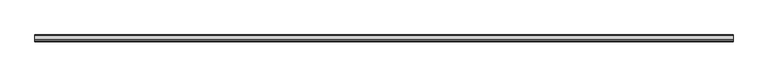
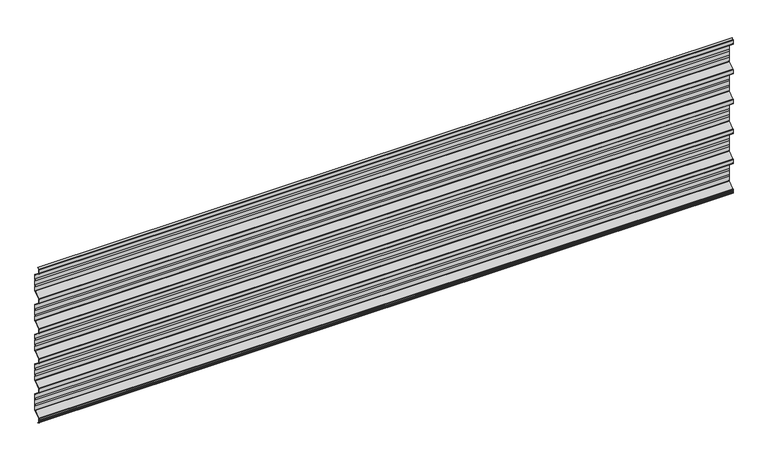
"""IFC4 building model written with IfcOpenShell, lengths in millimetres: plate geometry, HIANSA - H20.F09.004-CHAPA PERFILADA FACHADA HORIZONTAL - MT42 - Panel de Muro Cortina : -."""

from ifc_helpers import new_model, si_unit, point, frame, frame_2d, origin, place, context, project, spatial, polyline, circle_curve, trimmed, segment, composite_curve, outline, extrude, source, transform, mapped, element, save


def plate_926300cb(model_context):
    return source(origin(), model_context, "Body", "SweptSolid", [
        extrude(outline(composite_curve([segment(trimmed(circle_curve(frame_2d((-3.4, 553.2159219)), 2.6), [point((-0.8, 553.2159219))], [point((-1.8244302, 555.284153))], True, "CARTESIAN"), True, "CONTINUOUS"), segment(polyline([(-1.8244302, 555.284153), (-40.7603606, 584.9453834)]), True, "CONTINUOUS"), segment(trimmed(circle_curve(frame_2d((-38.7, 587.6499932)), 3.4), [point((-40.7603606, 584.9453834))], [point((-42.1, 587.6499932))], False, "CARTESIAN"), True, "CONTINUOUS"), segment(polyline([(-42.1, 587.6499932), (-42.1, 612.3500068)]), True, "CONTINUOUS"), segment(trimmed(circle_curve(frame_2d((-38.7, 612.3500068)), 3.4), [point((-42.1, 612.3500068))], [point((-40.7603606, 615.0546166))], False, "CARTESIAN"), True, "CONTINUOUS"), segment(polyline([(-40.7603606, 615.0546166), (-1.8244302, 644.715847)]), True, "CONTINUOUS"), segment(trimmed(circle_curve(frame_2d((-3.4, 646.7840781)), 2.6), [point((-1.8244302, 644.715847))], [point((-0.8, 646.7840781))], True, "CARTESIAN"), True, "CONTINUOUS"), segment(polyline([(-0.8, 646.7840781), (-0.8, 673.9336996)]), True, "CONTINUOUS"), segment(trimmed(circle_curve(frame_2d((17.1, 680.0)), 18.9), [point((-0.8, 673.9336996))], [point((-0.8, 686.0663004))], False, "CARTESIAN"), True, "CONTINUOUS"), segment(polyline([(-0.8, 686.0663004), (-0.8, 713.9336996)]), True, "CONTINUOUS"), segment(trimmed(circle_curve(frame_2d((17.1, 720.0)), 18.9), [point((-0.8, 713.9336996))], [point((-0.8, 726.0663004))], False, "CARTESIAN"), True, "CONTINUOUS"), segment(polyline([(-0.8, 726.0663004), (-0.8, 753.2159219)]), True, "CONTINUOUS"), segment(trimmed(circle_curve(frame_2d((-3.4, 753.2159219)), 2.6), [point((-0.8, 753.2159219))], [point((-1.8244302, 755.284153))], True, "CARTESIAN"), True, "CONTINUOUS"), segment(polyline([(-1.8244302, 755.284153), (-40.7603606, 784.9453834)]), True, "CONTINUOUS"), segment(trimmed(circle_curve(frame_2d((-38.7, 787.6499932)), 3.4), [point((-40.7603606, 784.9453834))], [point((-42.1, 787.6499932))], False, "CARTESIAN"), True, "CONTINUOUS"), segment(polyline([(-42.1, 787.6499932), (-42.1, 812.3500068)]), True, "CONTINUOUS"), segment(trimmed(circle_curve(frame_2d((-38.7, 812.3500068)), 3.4), [point((-42.1, 812.3500068))], [point((-40.7603606, 815.0546166))], False, "CARTESIAN"), True, "CONTINUOUS"), segment(polyline([(-40.7603606, 815.0546166), (-1.8244302, 844.715847)]), True, "CONTINUOUS"), segment(trimmed(circle_curve(frame_2d((-3.4, 846.7840781)), 2.6), [point((-1.8244302, 844.715847))], [point((-0.8, 846.7840781))], True, "CARTESIAN"), True, "CONTINUOUS"), segment(polyline([(-0.8, 846.7840781), (-0.8, 873.9336996)]), True, "CONTINUOUS"), segment(trimmed(circle_curve(frame_2d((17.1, 880.0)), 18.9), [point((-0.8, 873.9336996))], [point((-0.8, 886.0663004))], False, "CARTESIAN"), True, "CONTINUOUS"), segment(polyline([(-0.8, 886.0663004), (-0.8, 913.9336996)]), True, "CONTINUOUS"), segment(trimmed(circle_curve(frame_2d((17.1, 920.0)), 18.9), [point((-0.8, 913.9336996))], [point((-0.8, 926.0663004))], False, "CARTESIAN"), True, "CONTINUOUS"), segment(polyline([(-0.8, 926.0663004), (-0.8, 953.2159219)]), True, "CONTINUOUS"), segment(trimmed(circle_curve(frame_2d((-3.4, 953.2159219)), 2.6), [point((-0.8, 953.2159219))], [point((-1.8244302, 955.284153))], True, "CARTESIAN"), True, "CONTINUOUS"), segment(polyline([(-1.8244302, 955.284153), (-40.7603606, 984.9453834)]), True, "CONTINUOUS"), segment(trimmed(circle_curve(frame_2d((-38.7, 987.6499932)), 3.4), [point((-40.7603606, 984.9453834))], [point((-42.1, 987.6499932))], False, "CARTESIAN"), True, "CONTINUOUS"), segment(polyline([(-42.1, 987.6499932), (-42.1, 1012.3500068)]), True, "CONTINUOUS"), segment(trimmed(circle_curve(frame_2d((-38.7, 1012.3500068)), 3.4), [point((-42.1, 1012.3500068))], [point((-40.7603606, 1015.0546166))], False, "CARTESIAN"), True, "CONTINUOUS"), segment(polyline([(-40.7603606, 1015.0546166), (-31.7588447, 1021.9119341), (-31.7588447, 1020.9062437), (-40.2755698, 1014.4182378)]), True, "CONTINUOUS"), segment(trimmed(circle_curve(frame_2d((-38.7, 1012.3500068)), 2.6), [point((-40.2755698, 1014.4182378))], [point((-41.3, 1012.3500068))], True, "CARTESIAN"), True, "CONTINUOUS"), segment(polyline([(-41.3, 1012.3500068), (-41.3, 987.6499932)]), True, "CONTINUOUS"), segment(trimmed(circle_curve(frame_2d((-38.7, 987.6499932)), 2.6), [point((-41.3, 987.6499932))], [point((-40.2755698, 985.5817622))], True, "CARTESIAN"), True, "CONTINUOUS"), segment(polyline([(-40.2755698, 985.5817622), (-1.3396394, 955.9205318)]), True, "CONTINUOUS"), segment(trimmed(circle_curve(frame_2d((-3.4, 953.2159219)), 3.4), [point((-1.3396394, 955.9205318))], [point((0.0, 953.2159219))], False, "CARTESIAN"), True, "CONTINUOUS"), segment(polyline([(0.0, 953.2159219), (0.0, 925.9329588)]), True, "CONTINUOUS"), segment(trimmed(circle_curve(frame_2d((17.1, 920.0)), 18.1), [point((0.0, 925.9329588))], [point((0.0, 914.0670412))], True, "CARTESIAN"), True, "CONTINUOUS"), segment(polyline([(0.0, 914.0670412), (0.0, 885.9329588)]), True, "CONTINUOUS"), segment(trimmed(circle_curve(frame_2d((17.1, 880.0)), 18.1), [point((0.0, 885.9329588))], [point((0.0, 874.0670412))], True, "CARTESIAN"), True, "CONTINUOUS"), segment(polyline([(0.0, 874.0670412), (0.0, 846.7840781)]), True, "CONTINUOUS"), segment(trimmed(circle_curve(frame_2d((-3.4, 846.7840781)), 3.4), [point((0.0, 846.7840781))], [point((-1.3396394, 844.0794682))], False, "CARTESIAN"), True, "CONTINUOUS"), segment(polyline([(-1.3396394, 844.0794682), (-40.2755698, 814.4182378)]), True, "CONTINUOUS"), segment(trimmed(circle_curve(frame_2d((-38.7, 812.3500068)), 2.6), [point((-40.2755698, 814.4182378))], [point((-41.3, 812.3500068))], True, "CARTESIAN"), True, "CONTINUOUS"), segment(polyline([(-41.3, 812.3500068), (-41.3, 787.6499932)]), True, "CONTINUOUS"), segment(trimmed(circle_curve(frame_2d((-38.7, 787.6499932)), 2.6), [point((-41.3, 787.6499932))], [point((-40.2755698, 785.5817622))], True, "CARTESIAN"), True, "CONTINUOUS"), segment(polyline([(-40.2755698, 785.5817622), (-1.3396394, 755.9205318)]), True, "CONTINUOUS"), segment(trimmed(circle_curve(frame_2d((-3.4, 753.2159219)), 3.4), [point((-1.3396394, 755.9205318))], [point((0.0, 753.2159219))], False, "CARTESIAN"), True, "CONTINUOUS"), segment(polyline([(0.0, 753.2159219), (0.0, 725.9329588)]), True, "CONTINUOUS"), segment(trimmed(circle_curve(frame_2d((17.1, 720.0)), 18.1), [point((0.0, 725.9329588))], [point((0.0, 714.0670412))], True, "CARTESIAN"), True, "CONTINUOUS"), segment(polyline([(0.0, 714.0670412), (0.0, 685.9329588)]), True, "CONTINUOUS"), segment(trimmed(circle_curve(frame_2d((17.1, 680.0)), 18.1), [point((0.0, 685.9329588))], [point((0.0, 674.0670412))], True, "CARTESIAN"), True, "CONTINUOUS"), segment(polyline([(0.0, 674.0670412), (0.0, 646.7840781)]), True, "CONTINUOUS"), segment(trimmed(circle_curve(frame_2d((-3.4, 646.7840781)), 3.4), [point((0.0, 646.7840781))], [point((-1.3396394, 644.0794682))], False, "CARTESIAN"), True, "CONTINUOUS"), segment(polyline([(-1.3396394, 644.0794682), (-40.2755698, 614.4182378)]), True, "CONTINUOUS"), segment(trimmed(circle_curve(frame_2d((-38.7, 612.3500068)), 2.6), [point((-40.2755698, 614.4182378))], [point((-41.3, 612.3500068))], True, "CARTESIAN"), True, "CONTINUOUS"), segment(polyline([(-41.3, 612.3500068), (-41.3, 587.6499932)]), True, "CONTINUOUS"), segment(trimmed(circle_curve(frame_2d((-38.7, 587.6499932)), 2.6), [point((-41.3, 587.6499932))], [point((-40.2755698, 585.5817622))], True, "CARTESIAN"), True, "CONTINUOUS"), segment(polyline([(-40.2755698, 585.5817622), (-1.3396394, 555.9205318)]), True, "CONTINUOUS"), segment(trimmed(circle_curve(frame_2d((-3.4, 553.2159219)), 3.4), [point((-1.3396394, 555.9205318))], [point((0.0, 553.2159219))], False, "CARTESIAN"), True, "CONTINUOUS"), segment(polyline([(0.0, 553.2159219), (0.0, 525.9329588)]), True, "CONTINUOUS"), segment(trimmed(circle_curve(frame_2d((17.1, 520.0)), 18.1), [point((0.0, 525.9329588))], [point((0.0, 514.0670412))], True, "CARTESIAN"), True, "CONTINUOUS"), segment(polyline([(0.0, 514.0670412), (0.0, 485.9329588)]), True, "CONTINUOUS"), segment(trimmed(circle_curve(frame_2d((17.1, 480.0)), 18.1), [point((0.0, 485.9329588))], [point((0.0, 474.0670412))], True, "CARTESIAN"), True, "CONTINUOUS"), segment(polyline([(0.0, 474.0670412), (0.0, 446.7840781)]), True, "CONTINUOUS"), segment(trimmed(circle_curve(frame_2d((-3.4, 446.7840781)), 3.4), [point((0.0, 446.7840781))], [point((-1.3396394, 444.0794682))], False, "CARTESIAN"), True, "CONTINUOUS"), segment(polyline([(-1.3396394, 444.0794682), (-40.2755698, 414.4182378)]), True, "CONTINUOUS"), segment(trimmed(circle_curve(frame_2d((-38.7, 412.3500068)), 2.6), [point((-40.2755698, 414.4182378))], [point((-41.3, 412.3500068))], True, "CARTESIAN"), True, "CONTINUOUS"), segment(polyline([(-41.3, 412.3500068), (-41.3, 387.6499932)]), True, "CONTINUOUS"), segment(trimmed(circle_curve(frame_2d((-38.7, 387.6499932)), 2.6), [point((-41.3, 387.6499932))], [point((-40.2755698, 385.5817622))], True, "CARTESIAN"), True, "CONTINUOUS"), segment(polyline([(-40.2755698, 385.5817622), (-1.3396394, 355.9205318)]), True, "CONTINUOUS"), segment(trimmed(circle_curve(frame_2d((-3.4, 353.2159219)), 3.4), [point((-1.3396394, 355.9205318))], [point((0.0, 353.2159219))], False, "CARTESIAN"), True, "CONTINUOUS"), segment(polyline([(0.0, 353.2159219), (0.0, 325.9329588)]), True, "CONTINUOUS"), segment(trimmed(circle_curve(frame_2d((17.1, 320.0)), 18.1), [point((0.0, 325.9329588))], [point((0.0, 314.0670412))], True, "CARTESIAN"), True, "CONTINUOUS"), segment(polyline([(0.0, 314.0670412), (0.0, 285.9329588)]), True, "CONTINUOUS"), segment(trimmed(circle_curve(frame_2d((17.1, 280.0)), 18.1), [point((0.0, 285.9329588))], [point((0.0, 274.0670412))], True, "CARTESIAN"), True, "CONTINUOUS"), segment(polyline([(0.0, 274.0670412), (0.0, 246.7840781)]), True, "CONTINUOUS"), segment(trimmed(circle_curve(frame_2d((-3.4, 246.7840781)), 3.4), [point((0.0, 246.7840781))], [point((-1.3396394, 244.0794682))], False, "CARTESIAN"), True, "CONTINUOUS"), segment(polyline([(-1.3396394, 244.0794682), (-40.2755698, 214.4182378)]), True, "CONTINUOUS"), segment(trimmed(circle_curve(frame_2d((-38.7, 212.3500068)), 2.6), [point((-40.2755698, 214.4182378))], [point((-41.3, 212.3500068))], True, "CARTESIAN"), True, "CONTINUOUS"), segment(polyline([(-41.3, 212.3500068), (-41.3, 187.6499932)]), True, "CONTINUOUS"), segment(trimmed(circle_curve(frame_2d((-38.7, 187.6499932)), 2.6), [point((-41.3, 187.6499932))], [point((-40.2755698, 185.5817622))], True, "CARTESIAN"), True, "CONTINUOUS"), segment(polyline([(-40.2755698, 185.5817622), (-1.3396394, 155.9205318)]), True, "CONTINUOUS"), segment(trimmed(circle_curve(frame_2d((-3.4, 153.2159219)), 3.4), [point((-1.3396394, 155.9205318))], [point((0.0, 153.2159219))], False, "CARTESIAN"), True, "CONTINUOUS"), segment(polyline([(0.0, 153.2159219), (0.0, 125.9329588)]), True, "CONTINUOUS"), segment(trimmed(circle_curve(frame_2d((17.1, 120.0)), 18.1), [point((0.0, 125.9329588))], [point((0.0, 114.0670412))], True, "CARTESIAN"), True, "CONTINUOUS"), segment(polyline([(0.0, 114.0670412), (0.0, 85.9329588)]), True, "CONTINUOUS"), segment(trimmed(circle_curve(frame_2d((17.1, 80.0)), 18.1), [point((0.0, 85.9329588))], [point((0.0, 74.0670412))], True, "CARTESIAN"), True, "CONTINUOUS"), segment(polyline([(0.0, 74.0670412), (0.0, 45.9499932)]), True, "CONTINUOUS"), segment(trimmed(circle_curve(frame_2d((-3.4, 45.9499932)), 3.4), [point((0.0, 45.9499932))], [point((-1.3396394, 43.2453834))], False, "CARTESIAN"), True, "CONTINUOUS"), segment(polyline([(-1.3396394, 43.2453834), (-40.2755698, 13.584153)]), True, "CONTINUOUS"), segment(trimmed(circle_curve(frame_2d((-38.7, 11.5159219)), 2.6), [point((-40.2755698, 13.584153))], [point((-41.3, 11.5159219))], True, "CARTESIAN"), True, "CONTINUOUS"), segment(polyline([(-41.3, 11.5159219), (-41.3, 2.5690465)]), True, "CONTINUOUS"), segment(trimmed(circle_curve(frame_2d((-44.1, 0.0)), 3.8), [point((-41.3, 2.5690465))], [point((-41.3, -2.5690465))], False, "CARTESIAN"), True, "CONTINUOUS"), segment(polyline([(-41.3, -2.5690465), (-41.3, -11.5159219)]), True, "CONTINUOUS"), segment(trimmed(circle_curve(frame_2d((-38.7, -11.5159219)), 2.6), [point((-41.3, -11.5159219))], [point((-40.2755698, -13.584153))], True, "CARTESIAN"), True, "CONTINUOUS"), segment(polyline([(-40.2755698, -13.584153), (-31.7588447, -20.0721589), (-31.7588447, -21.0778492), (-40.7603606, -14.2205318)]), True, "CONTINUOUS"), segment(trimmed(circle_curve(frame_2d((-38.7, -11.5159219)), 3.4), [point((-40.7603606, -14.2205318))], [point((-42.1, -11.5159219))], False, "CARTESIAN"), True, "CONTINUOUS"), segment(polyline([(-42.1, -11.5159219), (-42.1, -2.7568097)]), True, "CONTINUOUS"), segment(trimmed(circle_curve(frame_2d((-40.8, -2.7568097)), 1.3), [point((-42.1, -2.7568097))], [point((-41.7976744, -1.9233556))], False, "CARTESIAN"), True, "CONTINUOUS"), segment(trimmed(circle_curve(frame_2d((-44.1, 0.0)), 3.0), [point((-41.7976744, -1.9233556))], [point((-41.7976744, 1.9233556))], True, "CARTESIAN"), True, "CONTINUOUS"), segment(trimmed(circle_curve(frame_2d((-40.8, 2.7568097)), 1.3), [point((-41.7976744, 1.9233556))], [point((-42.1, 2.7568097))], False, "CARTESIAN"), True, "CONTINUOUS"), segment(polyline([(-42.1, 2.7568097), (-42.1, 11.5159219)]), True, "CONTINUOUS"), segment(trimmed(circle_curve(frame_2d((-38.7, 11.5159219)), 3.4), [point((-42.1, 11.5159219))], [point((-40.7603606, 14.2205318))], False, "CARTESIAN"), True, "CONTINUOUS"), segment(polyline([(-40.7603606, 14.2205318), (-1.8244302, 43.8817622)]), True, "CONTINUOUS"), segment(trimmed(circle_curve(frame_2d((-3.4, 45.9499932)), 2.6), [point((-1.8244302, 43.8817622))], [point((-0.8, 45.9499932))], True, "CARTESIAN"), True, "CONTINUOUS"), segment(polyline([(-0.8, 45.9499932), (-0.8, 73.9336996)]), True, "CONTINUOUS"), segment(trimmed(circle_curve(frame_2d((17.1, 80.0)), 18.9), [point((-0.8, 73.9336996))], [point((-0.8, 86.0663004))], False, "CARTESIAN"), True, "CONTINUOUS"), segment(polyline([(-0.8, 86.0663004), (-0.8, 113.9336996)]), True, "CONTINUOUS"), segment(trimmed(circle_curve(frame_2d((17.1, 120.0)), 18.9), [point((-0.8, 113.9336996))], [point((-0.8, 126.0663004))], False, "CARTESIAN"), True, "CONTINUOUS"), segment(polyline([(-0.8, 126.0663004), (-0.8, 153.2159219)]), True, "CONTINUOUS"), segment(trimmed(circle_curve(frame_2d((-3.4, 153.2159219)), 2.6), [point((-0.8, 153.2159219))], [point((-1.8244302, 155.284153))], True, "CARTESIAN"), True, "CONTINUOUS"), segment(polyline([(-1.8244302, 155.284153), (-40.7603606, 184.9453834)]), True, "CONTINUOUS"), segment(trimmed(circle_curve(frame_2d((-38.7, 187.6499932)), 3.4), [point((-40.7603606, 184.9453834))], [point((-42.1, 187.6499932))], False, "CARTESIAN"), True, "CONTINUOUS"), segment(polyline([(-42.1, 187.6499932), (-42.1, 212.3500068)]), True, "CONTINUOUS"), segment(trimmed(circle_curve(frame_2d((-38.7, 212.3500068)), 3.4), [point((-42.1, 212.3500068))], [point((-40.7603606, 215.0546166))], False, "CARTESIAN"), True, "CONTINUOUS"), segment(polyline([(-40.7603606, 215.0546166), (-1.8244302, 244.715847)]), True, "CONTINUOUS"), segment(trimmed(circle_curve(frame_2d((-3.4, 246.7840781)), 2.6), [point((-1.8244302, 244.715847))], [point((-0.8, 246.7840781))], True, "CARTESIAN"), True, "CONTINUOUS"), segment(polyline([(-0.8, 246.7840781), (-0.8, 273.9336996)]), True, "CONTINUOUS"), segment(trimmed(circle_curve(frame_2d((17.1, 280.0)), 18.9), [point((-0.8, 273.9336996))], [point((-0.8, 286.0663004))], False, "CARTESIAN"), True, "CONTINUOUS"), segment(polyline([(-0.8, 286.0663004), (-0.8, 313.9336996)]), True, "CONTINUOUS"), segment(trimmed(circle_curve(frame_2d((17.1, 320.0)), 18.9), [point((-0.8, 313.9336996))], [point((-0.8, 326.0663004))], False, "CARTESIAN"), True, "CONTINUOUS"), segment(polyline([(-0.8, 326.0663004), (-0.8, 353.2159219)]), True, "CONTINUOUS"), segment(trimmed(circle_curve(frame_2d((-3.4, 353.2159219)), 2.6), [point((-0.8, 353.2159219))], [point((-1.8244302, 355.284153))], True, "CARTESIAN"), True, "CONTINUOUS"), segment(polyline([(-1.8244302, 355.284153), (-40.7603606, 384.9453834)]), True, "CONTINUOUS"), segment(trimmed(circle_curve(frame_2d((-38.7, 387.6499932)), 3.4), [point((-40.7603606, 384.9453834))], [point((-42.1, 387.6499932))], False, "CARTESIAN"), True, "CONTINUOUS"), segment(polyline([(-42.1, 387.6499932), (-42.1, 412.3500068)]), True, "CONTINUOUS"), segment(trimmed(circle_curve(frame_2d((-38.7, 412.3500068)), 3.4), [point((-42.1, 412.3500068))], [point((-40.7603606, 415.0546166))], False, "CARTESIAN"), True, "CONTINUOUS"), segment(polyline([(-40.7603606, 415.0546166), (-1.8244302, 444.715847)]), True, "CONTINUOUS"), segment(trimmed(circle_curve(frame_2d((-3.4, 446.7840781)), 2.6), [point((-1.8244302, 444.715847))], [point((-0.8, 446.7840781))], True, "CARTESIAN"), True, "CONTINUOUS"), segment(polyline([(-0.8, 446.7840781), (-0.8, 473.9336996)]), True, "CONTINUOUS"), segment(trimmed(circle_curve(frame_2d((17.1, 480.0)), 18.9), [point((-0.8, 473.9336996))], [point((-0.8, 486.0663004))], False, "CARTESIAN"), True, "CONTINUOUS"), segment(polyline([(-0.8, 486.0663004), (-0.8, 513.9336996)]), True, "CONTINUOUS"), segment(trimmed(circle_curve(frame_2d((17.1, 520.0)), 18.9), [point((-0.8, 513.9336996))], [point((-0.8, 526.0663004))], False, "CARTESIAN"), True, "CONTINUOUS"), segment(polyline([(-0.8, 526.0663004), (-0.8, 553.2159219)]), True, "CONTINUOUS")], self_intersect=False)), frame((-2200.0, 0.0, 0.0), z_axis=(1.0, 0.0, 0.0), x_axis=(0.0, 1.0, 0.0)), (0.0, 0.0, 1.0), 4400.0),
    ])


if __name__ == "__main__":
    model = new_model("IFC4")
    model_context = context("Model", 3, world=origin())
    ifc_project = project(units=[si_unit("LENGTHUNIT", "METRE", prefix="MILLI")], contexts=[model_context])
    site = spatial("IfcSite", under=ifc_project)
    building = spatial("IfcBuilding", under=site)
    placement = place(None, origin())
    plate_shape = plate_926300cb(model_context)
    element("IfcPlate", 1, ObjectType="HIANSA - H20.F09.004-CHAPA PERFILADA FACHADA HORIZONTAL - MT42 - Panel de Muro Cortina : -", at=placement, inside=building, context=model_context, shape_type="MappedRepresentation", body=[
        mapped(plate_shape, transform((0.0, 0.0, 0.0), x_axis=(1.0, 0.0, 0.0), y_axis=(0.0, 1.0, 0.0), z_axis=(0.0, 0.0, 1.0))),
    ])
    save(model, "model.ifc")
